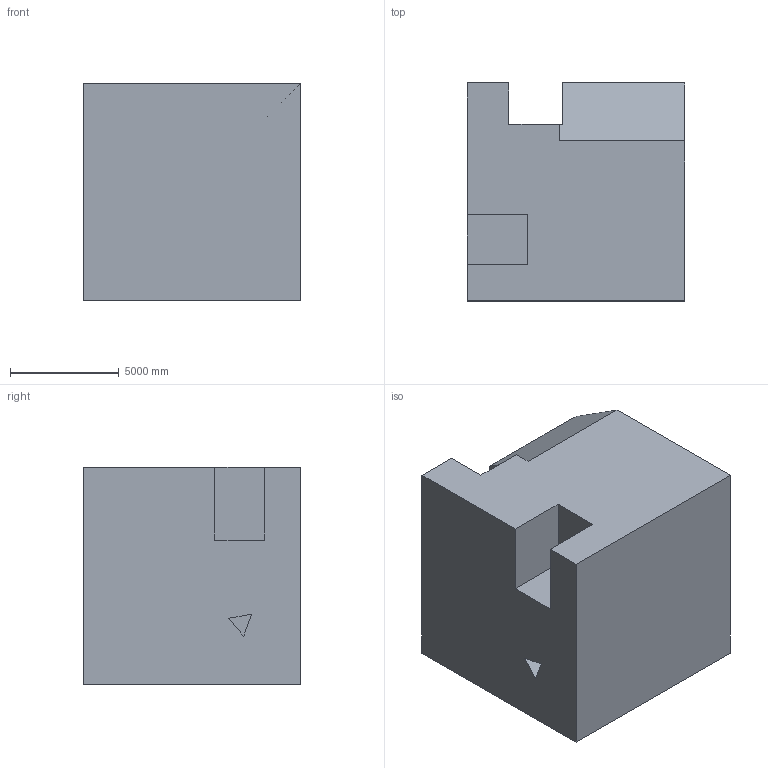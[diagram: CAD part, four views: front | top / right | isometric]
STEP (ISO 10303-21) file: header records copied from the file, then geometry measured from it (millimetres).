
FILE_DESCRIPTION (( 'STEP AP203' ), '1' );
FILE_NAME ('462.STEP', '2022-07-29T11:22:47', ( 'user' ), ( '' ), 'SwSTEP 2.0', 'SolidWorks 2021', '' );
FILE_SCHEMA (( 'CONFIG_CONTROL_DESIGN' ));
Length unit declared in the file: centimetre
Products named in the file (1): 462
Bounding box: 10000 x 10000 x 10000 mm (x, y, z)
Volume: 900321054135.3 mm3; surface area: 676201943.5 mm2
Topology: 1 solids, 1 shells, 27 faces, 69 edges, 46 vertices
Faces by surface type: plane 23, cylinder 4
Entity records: 890 total; most frequent: CARTESIAN_POINT 143, ORIENTED_EDGE 138, DIRECTION 135, EDGE_CURVE 69, VECTOR 59, LINE 59, VERTEX_POINT 46, AXIS2_PLACEMENT_3D 38
